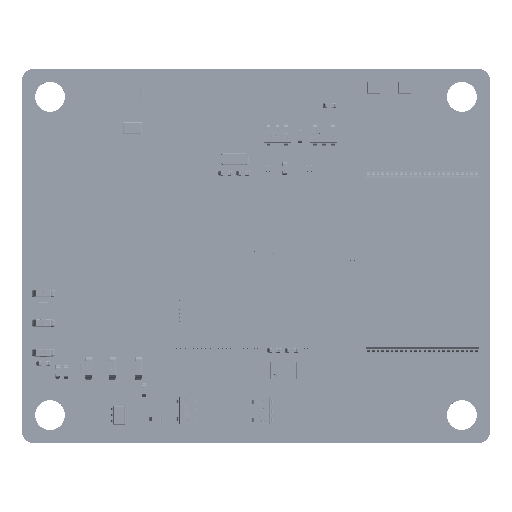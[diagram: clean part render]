
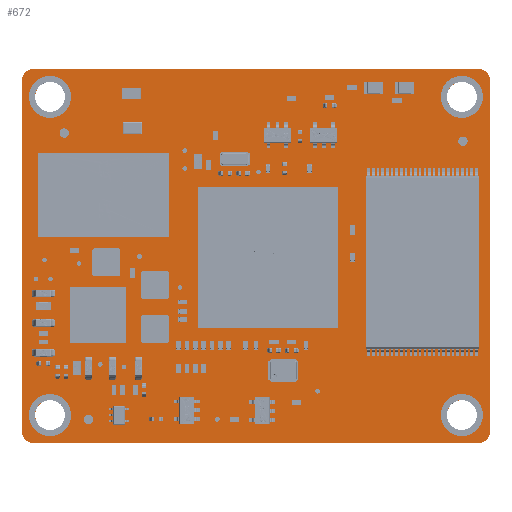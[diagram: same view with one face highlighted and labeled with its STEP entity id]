
A CAD part, top view. The second image highlights one B-rep face of the part: STEP entity #672.
In plain terms, the highlighted planar face has unit normal (0, 0, 1) as drawn and (0, 1, 0) by its records, which use the part's own axes.
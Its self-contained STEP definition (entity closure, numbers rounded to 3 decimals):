
#179=DIRECTION('',(-1.,0.,0.));
#180=VECTOR('',#179,47.46);
#181=CARTESIAN_POINT('',(48.73,1.6,0.));
#182=LINE('',#181,#180);
#186=DIRECTION('',(0.,0.,1.));
#187=VECTOR('',#186,37.46);
#188=CARTESIAN_POINT('',(0.,1.6,-38.73));
#189=LINE('',#188,#187);
#193=CARTESIAN_POINT('',(1.27,1.6,-38.73));
#194=DIRECTION('',(0.,1.,0.));
#195=DIRECTION('',(0.,0.,-1.));
#196=AXIS2_PLACEMENT_3D('',#193,#194,#195);
#201=DIRECTION('',(-1.,0.,0.));
#202=VECTOR('',#201,47.46);
#203=CARTESIAN_POINT('',(48.73,1.6,-40.));
#204=LINE('',#203,#202);
#208=CARTESIAN_POINT('',(48.73,1.6,-38.73));
#209=DIRECTION('',(0.,1.,0.));
#210=DIRECTION('',(1.,0.,0.));
#211=AXIS2_PLACEMENT_3D('',#208,#209,#210);
#216=CARTESIAN_POINT('',(48.73,1.6,-1.27));
#217=DIRECTION('',(0.,1.,0.));
#218=DIRECTION('',(0.,0.,1.));
#219=AXIS2_PLACEMENT_3D('',#216,#217,#218);
#224=CARTESIAN_POINT('',(1.27,1.6,-1.27));
#225=DIRECTION('',(0.,1.,0.));
#226=DIRECTION('',(-1.,0.,0.));
#227=AXIS2_PLACEMENT_3D('',#224,#225,#226);
#232=CARTESIAN_POINT('',(47.,1.6,-3.));
#233=DIRECTION('',(0.,-1.,0.));
#234=DIRECTION('',(0.,0.,1.));
#235=AXIS2_PLACEMENT_3D('',#232,#233,#234);
#240=CARTESIAN_POINT('',(47.,1.6,-3.));
#241=DIRECTION('',(0.,-1.,0.));
#242=DIRECTION('',(0.,0.,-1.));
#243=AXIS2_PLACEMENT_3D('',#240,#241,#242);
#248=CARTESIAN_POINT('',(3.,1.6,-37.));
#249=DIRECTION('',(0.,-1.,0.));
#250=DIRECTION('',(0.,0.,1.));
#251=AXIS2_PLACEMENT_3D('',#248,#249,#250);
#256=CARTESIAN_POINT('',(3.,1.6,-37.));
#257=DIRECTION('',(0.,-1.,0.));
#258=DIRECTION('',(0.,0.,-1.));
#259=AXIS2_PLACEMENT_3D('',#256,#257,#258);
#264=CARTESIAN_POINT('',(47.,1.6,-37.));
#265=DIRECTION('',(0.,-1.,0.));
#266=DIRECTION('',(0.,0.,1.));
#267=AXIS2_PLACEMENT_3D('',#264,#265,#266);
#272=CARTESIAN_POINT('',(47.,1.6,-37.));
#273=DIRECTION('',(0.,-1.,0.));
#274=DIRECTION('',(0.,0.,-1.));
#275=AXIS2_PLACEMENT_3D('',#272,#273,#274);
#280=CARTESIAN_POINT('',(3.,1.6,-3.));
#281=DIRECTION('',(0.,-1.,0.));
#282=DIRECTION('',(0.,0.,1.));
#283=AXIS2_PLACEMENT_3D('',#280,#281,#282);
#288=CARTESIAN_POINT('',(3.,1.6,-3.));
#289=DIRECTION('',(0.,-1.,0.));
#290=DIRECTION('',(0.,0.,-1.));
#291=AXIS2_PLACEMENT_3D('',#288,#289,#290);
#427=DIRECTION('',(0.,0.,1.));
#428=VECTOR('',#427,37.46);
#429=CARTESIAN_POINT('',(50.,1.6,-38.73));
#430=LINE('',#429,#428);
#539=CARTESIAN_POINT('',(1.27,1.6,-40.));
#541=VERTEX_POINT('',#539);
#544=CARTESIAN_POINT('',(47.,1.6,-38.6));
#546=VERTEX_POINT('',#544);
#555=CARTESIAN_POINT('',(47.,1.6,-1.4));
#556=VERTEX_POINT('',#555);
#558=CARTESIAN_POINT('',(1.27,1.6,0.));
#560=VERTEX_POINT('',#558);
#566=CARTESIAN_POINT('',(3.,1.6,-4.6));
#568=VERTEX_POINT('',#566);
#570=CARTESIAN_POINT('',(48.73,1.6,-40.));
#572=VERTEX_POINT('',#570);
#573=CARTESIAN_POINT('',(47.,1.6,-4.6));
#574=VERTEX_POINT('',#573);
#579=CARTESIAN_POINT('',(3.,1.6,-35.4));
#580=CARTESIAN_POINT('',(3.,1.6,-38.6));
#581=VERTEX_POINT('',#579);
#582=VERTEX_POINT('',#580);
#583=CARTESIAN_POINT('',(3.,1.6,-1.4));
#584=VERTEX_POINT('',#583);
#585=CARTESIAN_POINT('',(0.,1.6,-1.27));
#586=VERTEX_POINT('',#585);
#587=CARTESIAN_POINT('',(50.,1.6,-38.73));
#588=CARTESIAN_POINT('',(50.,1.6,-1.27));
#589=VERTEX_POINT('',#587);
#590=VERTEX_POINT('',#588);
#595=CARTESIAN_POINT('',(48.73,1.6,0.));
#597=VERTEX_POINT('',#595);
#599=CARTESIAN_POINT('',(0.,1.6,-38.73));
#600=VERTEX_POINT('',#599);
#601=CARTESIAN_POINT('',(47.,1.6,-35.4));
#602=VERTEX_POINT('',#601);
#626=CARTESIAN_POINT('',(0.,1.6,0.));
#627=DIRECTION('',(0.,1.,0.));
#628=DIRECTION('',(0.,0.,1.));
#629=AXIS2_PLACEMENT_3D('',#626,#627,#628);
#630=PLANE('',#629);
#632=ORIENTED_EDGE('',*,*,#631,.F.);
#634=ORIENTED_EDGE('',*,*,#633,.F.);
#636=ORIENTED_EDGE('',*,*,#635,.F.);
#638=ORIENTED_EDGE('',*,*,#637,.F.);
#640=ORIENTED_EDGE('',*,*,#639,.T.);
#642=ORIENTED_EDGE('',*,*,#641,.F.);
#643=ORIENTED_EDGE('',*,*,#608,.T.);
#645=ORIENTED_EDGE('',*,*,#644,.F.);
#646=EDGE_LOOP('',(#632,#634,#636,#638,#640,#642,#643,#645));
#647=FACE_OUTER_BOUND('',#646,.F.);
#649=ORIENTED_EDGE('',*,*,#648,.F.);
#651=ORIENTED_EDGE('',*,*,#650,.F.);
#652=EDGE_LOOP('',(#649,#651));
#653=FACE_BOUND('',#652,.F.);
#655=ORIENTED_EDGE('',*,*,#654,.F.);
#657=ORIENTED_EDGE('',*,*,#656,.F.);
#658=EDGE_LOOP('',(#655,#657));
#659=FACE_BOUND('',#658,.F.);
#661=ORIENTED_EDGE('',*,*,#660,.F.);
#663=ORIENTED_EDGE('',*,*,#662,.F.);
#664=EDGE_LOOP('',(#661,#663));
#665=FACE_BOUND('',#664,.F.);
#667=ORIENTED_EDGE('',*,*,#666,.F.);
#669=ORIENTED_EDGE('',*,*,#668,.F.);
#670=EDGE_LOOP('',(#667,#669));
#671=FACE_BOUND('',#670,.F.);
#197=CIRCLE('',#196,1.27);
#212=CIRCLE('',#211,1.27);
#220=CIRCLE('',#219,1.27);
#228=CIRCLE('',#227,1.27);
#236=CIRCLE('',#235,1.6);
#244=CIRCLE('',#243,1.6);
#252=CIRCLE('',#251,1.6);
#260=CIRCLE('',#259,1.6);
#268=CIRCLE('',#267,1.6);
#276=CIRCLE('',#275,1.6);
#284=CIRCLE('',#283,1.6);
#292=CIRCLE('',#291,1.6);
#608=EDGE_CURVE('',#597,#560,#182,.T.);
#631=EDGE_CURVE('',#600,#586,#189,.T.);
#633=EDGE_CURVE('',#541,#600,#197,.T.);
#635=EDGE_CURVE('',#572,#541,#204,.T.);
#637=EDGE_CURVE('',#589,#572,#212,.T.);
#639=EDGE_CURVE('',#589,#590,#430,.T.);
#641=EDGE_CURVE('',#597,#590,#220,.T.);
#644=EDGE_CURVE('',#586,#560,#228,.T.);
#648=EDGE_CURVE('',#556,#574,#236,.T.);
#650=EDGE_CURVE('',#574,#556,#244,.T.);
#654=EDGE_CURVE('',#581,#582,#252,.T.);
#656=EDGE_CURVE('',#582,#581,#260,.T.);
#660=EDGE_CURVE('',#602,#546,#268,.T.);
#662=EDGE_CURVE('',#546,#602,#276,.T.);
#666=EDGE_CURVE('',#584,#568,#284,.T.);
#668=EDGE_CURVE('',#568,#584,#292,.T.);
#672=ADVANCED_FACE('',(#647,#653,#659,#665,#671),#630,.T.);
